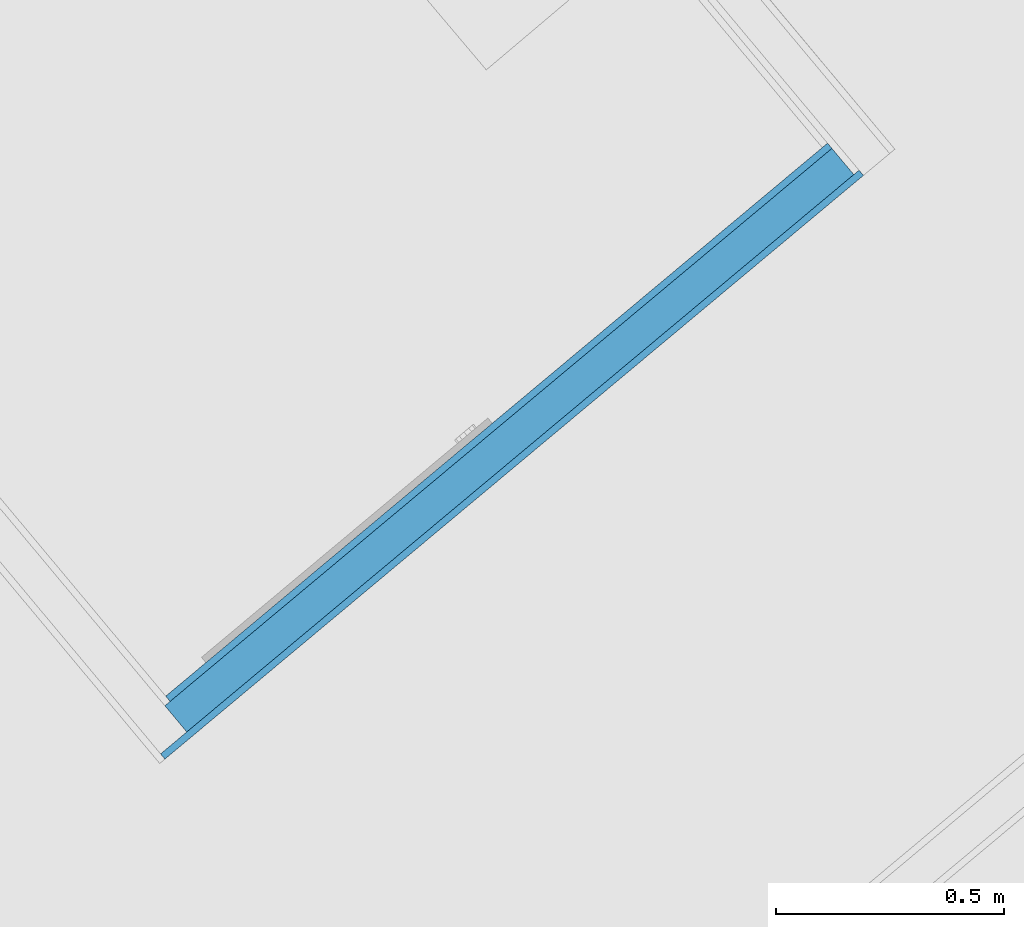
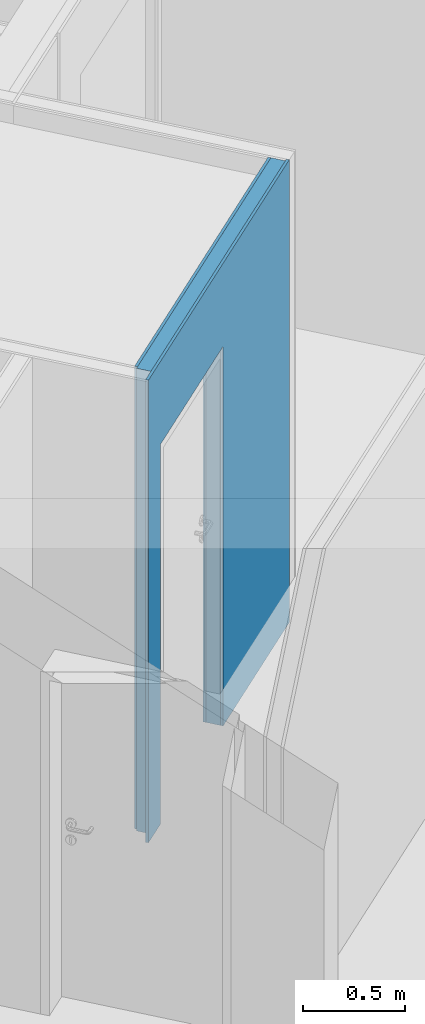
# One storey, part 6 of 58: 3 building element parts, 1 opening, 1 element without a shape of its own.
"""IFC4 building model written with IfcOpenShell, lengths in metres."""

from ifc_helpers import new_model, entity, si_unit, converted_unit, derived_unit, direction, frame, origin_with_axes, place, context, subcontext, project, spatial, polygons, material, type_object, element, aggregate, save


model = new_model("IFC4")

# Units and contexts
model_context = context("Model", 3, precision=1e-05, world=origin_with_axes(), true_north=direction((0.0, 1.0)))
body_context = subcontext(model_context, "Body", "Model", "MODEL_VIEW")
ifc_project = project(units=[si_unit("LENGTHUNIT", "METRE"), si_unit("AREAUNIT", "SQUARE_METRE"), si_unit("VOLUMEUNIT", "CUBIC_METRE"), converted_unit("PLANEANGLEUNIT", "DEGREE", entity("IfcPlaneAngleMeasure", 0.0174532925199), si_unit("PLANEANGLEUNIT", "RADIAN"), dimensions=[0, 0, 0, 0, 0, 0, 0]), converted_unit("TIMEUNIT", "Year", entity("IfcTimeMeasure", 31556926.0), si_unit("TIMEUNIT", "SECOND"), dimensions=[0, 0, 1, 0, 0, 0, 0]), si_unit("MASSUNIT", "GRAM", prefix="KILO"), si_unit("THERMODYNAMICTEMPERATUREUNIT", "DEGREE_CELSIUS"), si_unit("LUMINOUSINTENSITYUNIT", "LUMEN"), si_unit("ENERGYUNIT", "JOULE", prefix="MEGA"), derived_unit("THERMALCONDUCTANCEUNIT", [(si_unit("POWERUNIT", "WATT"), 1), (si_unit("LENGTHUNIT", "METRE"), -1), (si_unit("THERMODYNAMICTEMPERATUREUNIT", "KELVIN"), -1)]), derived_unit("SPECIFICHEATCAPACITYUNIT", [(si_unit("ENERGYUNIT", "JOULE"), 1), (si_unit("MASSUNIT", "GRAM", prefix="KILO"), -1), (si_unit("THERMODYNAMICTEMPERATUREUNIT", "KELVIN"), -1)]), derived_unit("MASSDENSITYUNIT", [(si_unit("MASSUNIT", "GRAM", prefix="KILO"), 1), (si_unit("VOLUMEUNIT", "CUBIC_METRE"), -1)])], contexts=[model_context])

# Site, building, storey
site_placement = place(None, frame((-0.00153261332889, -0.00661245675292, 0.0), z_axis=(0.0, 0.0, 1.0), x_axis=(1.0, 0.0, 0.0)))
site = spatial("IfcSite", under=ifc_project, at=site_placement, Name="Site", CompositionType="ELEMENT")
building_placement = place(site_placement, origin_with_axes())
building = spatial("IfcBuilding", under=site, at=building_placement, Name="Building", CompositionType="ELEMENT")
storey_placement = place(building_placement, frame((0.0, 0.0, 5.7), z_axis=(0.0, 0.0, 1.0), x_axis=(1.0, 0.0, 0.0)))
storey = spatial("IfcBuildingStorey", under=building, at=storey_placement, Name="DG1", CompositionType="ELEMENT", Elevation=5.7)

# Wall, opening, building element parts
wall_type = type_object("IfcWallType", Name="IW LB 01 Leichtbautrennwand einfach 10,5 cm 105", PredefinedType="NOTDEFINED")
wall_placement = place(storey_placement, frame((1.00454728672, 18.4277687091, 0.0), z_axis=(0.0, 0.0, 1.0), x_axis=(0.767365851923, 0.641209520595, 0.0)))
wall = element("IfcWall", 1, at=wall_placement, inside=storey, type_object=wall_type, Name="Wand-012", PredefinedType="NOTDEFINED")
opening_placement = place(wall_placement, frame((0.630112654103, 0.0, 0.22), z_axis=(0.0, 0.0, 1.0), x_axis=(1.0, 0.0, 0.0)))
element("IfcOpeningElement", 2, at=opening_placement, cuts=wall, Name="Tür-016", context=body_context, identifier="Reference", shape_type="Tessellation", body=[
    polygons([(-0.445, -0.97786977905, 2.045), (-0.445, -0.97786977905, -0.22), (0.445, -0.97786977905, -0.22), (0.445, -0.97786977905, 2.045), (-0.445, 1.08286977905, 2.045), (-0.445, 1.08286977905, -0.22), (0.445, 1.08286977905, -0.22), (0.445, 1.08286977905, 2.045)], [[[1, 2, 3, 4]], [[5, 6, 2, 1]], [[6, 7, 3, 2]], [[7, 8, 4, 3]], [[8, 5, 1, 4]], [[7, 6, 5, 8]]], closed=True),
])
ifc_material_1 = material(Name="Gipskarton")
building_element_part_1_placement = place(wall_placement, origin_with_axes())
building_element_part_1 = element("IfcBuildingElementPart", 3, at=building_element_part_1_placement, material=ifc_material_1, Name="Gipskarton", PredefinedType="NOTDEFINED", context=body_context, shape_type="Tessellation", body=[
    polygons([(0.185112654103, 0.09, 0.22), (0.185112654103, 0.09, 2.265), (1.0751126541, 0.09, 2.265), (1.0751126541, 0.09, 0.22), (1.07511264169, 0.09, 0.0), (2.0002515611, 0.09, 0.0), (2.0002515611, 0.09, 2.76), (0.104999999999, 0.09, 2.76), (0.104999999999, 0.09, 0.0), (0.185112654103, 0.09, 0.0), (0.185112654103, 0.104999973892, 0.22), (0.185112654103, 0.105000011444, 2.265), (1.0751126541, 0.105000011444, 2.265), (1.0751126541, 0.105000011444, 0.22), (1.07511264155, 0.105000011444, 0.0), (2.00023731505, 0.105, 0.0), (2.00023731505, 0.105, 2.76), (0.104999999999, 0.105, 2.76), (0.104999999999, 0.105, 0.0), (0.185112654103, 0.104999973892, 0.0)], [[[1, 2, 3, 4, 5, 6, 7, 8, 9, 10]], [[2, 1, 11, 12]], [[3, 2, 12, 13]], [[4, 3, 13, 14]], [[4, 14, 15, 5]], [[15, 16, 6, 5]], [[16, 17, 7, 6]], [[17, 18, 8, 7]], [[19, 9, 8, 18]], [[10, 9, 19, 20]], [[11, 1, 10, 20]], [[12, 11, 20, 19, 18, 17, 16, 15, 14, 13]]], closed=True),
])
ifc_material_2 = material(Name="Mineralwolle weich")
building_element_part_2_placement = place(wall_placement, origin_with_axes())
building_element_part_2 = element("IfcBuildingElementPart", 4, at=building_element_part_2_placement, material=ifc_material_2, Name="Mineralwolle weich", PredefinedType="NOTDEFINED", context=body_context, shape_type="Tessellation", body=[
    polygons([(0.185112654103, 0.015, 0.22), (0.185112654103, 0.015, 2.265), (1.0751126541, 0.015, 2.265), (1.0751126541, 0.015, 0.22), (1.07511264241, 0.015, 0.0), (2.00032279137, 0.015, 0.0), (2.00032279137, 0.015, 2.76), (0.0899999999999, 0.015, 2.76), (0.0899999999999, 0.015, 0.0), (0.185112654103, 0.015, 0.0), (0.185112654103, 0.09, 0.22), (0.185112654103, 0.09, 2.265), (1.0751126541, 0.09, 2.265), (1.0751126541, 0.09, 0.22), (1.07511264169, 0.09, 0.0), (2.0002515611, 0.09, 0.0), (2.0002515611, 0.09, 2.76), (0.0899999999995, 0.09, 2.76), (0.0899999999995, 0.09, 0.0), (0.185112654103, 0.09, 0.0)], [[[1, 2, 3, 4, 5, 6, 7, 8, 9, 10]], [[2, 1, 11, 12]], [[3, 2, 12, 13]], [[4, 3, 13, 14]], [[4, 14, 15, 5]], [[15, 16, 6, 5]], [[16, 17, 7, 6]], [[17, 18, 8, 7]], [[19, 9, 8, 18]], [[10, 9, 19, 20]], [[11, 1, 10, 20]], [[12, 11, 20, 19, 18, 17, 16, 15, 14, 13]]], closed=True),
])
building_element_part_3_placement = place(wall_placement, origin_with_axes())
building_element_part_3 = element("IfcBuildingElementPart", 5, at=building_element_part_3_placement, material=ifc_material_1, Name="Gipskarton", PredefinedType="NOTDEFINED", context=body_context, shape_type="Tessellation", body=[
    polygons([(0.185112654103, 0.0, 0.22), (0.185112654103, 0.0, 2.265), (1.0751126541, 0.0, 2.265), (1.0751126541, 0.0, 0.22), (1.07511264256, 0.0, 0.0), (2.01533704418, 0.0, 0.0), (2.01533704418, 0.0, 2.76), (0.015, 0.0, 2.76), (0.015, 0.0, 0.0), (0.185112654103, 0.0, 0.0), (0.185112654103, 0.015, 0.22), (0.185112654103, 0.015, 2.265), (1.0751126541, 0.015, 2.265), (1.0751126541, 0.015, 0.22), (1.07511264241, 0.015, 0.0), (2.01532279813, 0.015, 0.0), (2.01532279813, 0.015, 2.76), (0.0149999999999, 0.015, 2.76), (0.0149999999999, 0.015, 0.0), (0.185112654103, 0.015, 0.0)], [[[1, 2, 3, 4, 5, 6, 7, 8, 9, 10]], [[2, 1, 11, 12]], [[3, 2, 12, 13]], [[4, 3, 13, 14]], [[4, 14, 15, 5]], [[15, 16, 6, 5]], [[16, 17, 7, 6]], [[17, 18, 8, 7]], [[19, 9, 8, 18]], [[10, 9, 19, 20]], [[11, 1, 10, 20]], [[12, 11, 20, 19, 18, 17, 16, 15, 14, 13]]], closed=True),
])
aggregate(wall, [building_element_part_1, building_element_part_2, building_element_part_3])

save(model, "model.ifc")
